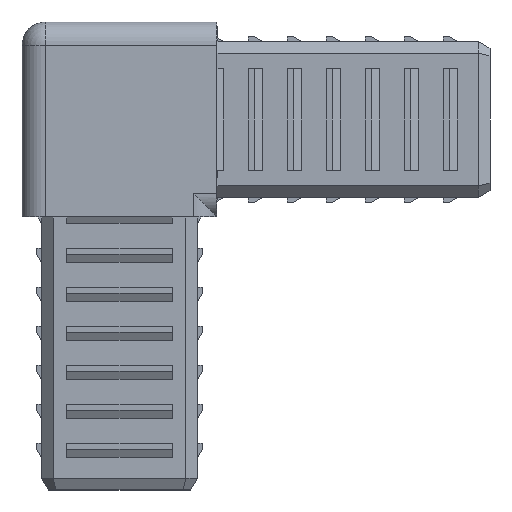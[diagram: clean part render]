
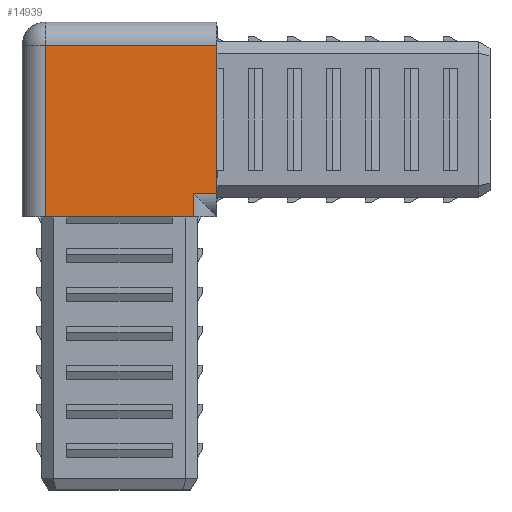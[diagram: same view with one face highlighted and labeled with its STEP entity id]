
A CAD part, front view. The second image highlights one B-rep face of the part: STEP entity #14939.
In plain terms, the highlighted planar face has unit normal (0, -1, 0).
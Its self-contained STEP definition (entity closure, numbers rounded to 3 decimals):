
#371 = VECTOR ( 'NONE', #10450, 1000. ) ;
#409 = VERTEX_POINT ( 'NONE', #15345 ) ;
#698 = ORIENTED_EDGE ( 'NONE', *, *, #14930, .T. ) ;
#900 = VECTOR ( 'NONE', #6062, 1000. ) ;
#1424 = PLANE ( 'NONE',  #14953 ) ;
#1698 = CARTESIAN_POINT ( 'NONE',  ( 9.5, -12.5, -9.5 ) ) ;
#2052 = VECTOR ( 'NONE', #4997, 1000. ) ;
#2377 = VERTEX_POINT ( 'NONE', #12640 ) ;
#2685 = ORIENTED_EDGE ( 'NONE', *, *, #2739, .T. ) ;
#2739 = EDGE_CURVE ( 'NONE', #10537, #2377, #3955, .T. ) ;
#3539 = LINE ( 'NONE', #13192, #900 ) ;
#3627 = ORIENTED_EDGE ( 'NONE', *, *, #5513, .T. ) ;
#3638 = LINE ( 'NONE', #1698, #14090 ) ;
#3955 = LINE ( 'NONE', #15468, #4912 ) ;
#3976 = CARTESIAN_POINT ( 'NONE',  ( -12.5, -12.5, 12.5 ) ) ;
#4563 = VERTEX_POINT ( 'NONE', #6643 ) ;
#4891 = CARTESIAN_POINT ( 'NONE',  ( -9.5, -12.5, 9.5 ) ) ;
#4912 = VECTOR ( 'NONE', #6022, 1000. ) ;
#4997 = DIRECTION ( 'NONE',  ( -1., 0., 0. ) ) ;
#5513 = EDGE_CURVE ( 'NONE', #14292, #10537, #10982, .T. ) ;
#6007 = LINE ( 'NONE', #6953, #371 ) ;
#6022 = DIRECTION ( 'NONE',  ( 1., 0., 0. ) ) ;
#6062 = DIRECTION ( 'NONE',  ( 0., 0., -1. ) ) ;
#6124 = ORIENTED_EDGE ( 'NONE', *, *, #15097, .F. ) ;
#6643 = CARTESIAN_POINT ( 'NONE',  ( 9.5, -12.5, -9.5 ) ) ;
#6953 = CARTESIAN_POINT ( 'NONE',  ( 9.5, -12.5, -12.5 ) ) ;
#7174 = DIRECTION ( 'NONE',  ( 0., 0., -1. ) ) ;
#7207 = EDGE_CURVE ( 'NONE', #4563, #11734, #3638, .T. ) ;
#8792 = DIRECTION ( 'NONE',  ( 1., 0., 0. ) ) ;
#8822 = FACE_OUTER_BOUND ( 'NONE', #15085, .T. ) ;
#9679 = CARTESIAN_POINT ( 'NONE',  ( -9.5, -12.5, 12.5 ) ) ;
#9741 = CARTESIAN_POINT ( 'NONE',  ( -12.5, -12.5, 9.5 ) ) ;
#9790 = DIRECTION ( 'NONE',  ( 0., 1., 0. ) ) ;
#9821 = CARTESIAN_POINT ( 'NONE',  ( 12.5, -12.5, -9.5 ) ) ;
#9959 = EDGE_CURVE ( 'NONE', #409, #11734, #3539, .T. ) ;
#9980 = ORIENTED_EDGE ( 'NONE', *, *, #7207, .T. ) ;
#10416 = VECTOR ( 'NONE', #7174, 1000. ) ;
#10450 = DIRECTION ( 'NONE',  ( 0., 0., -1. ) ) ;
#10537 = VERTEX_POINT ( 'NONE', #12864 ) ;
#10982 = LINE ( 'NONE', #9679, #10416 ) ;
#11734 = VERTEX_POINT ( 'NONE', #9821 ) ;
#12146 = DIRECTION ( 'NONE',  ( 0., 0., 1. ) ) ;
#12640 = CARTESIAN_POINT ( 'NONE',  ( 9.5, -12.5, -12.5 ) ) ;
#12748 = ORIENTED_EDGE ( 'NONE', *, *, #9959, .F. ) ;
#12864 = CARTESIAN_POINT ( 'NONE',  ( -9.5, -12.5, -12.5 ) ) ;
#12888 = LINE ( 'NONE', #9741, #2052 ) ;
#13192 = CARTESIAN_POINT ( 'NONE',  ( 12.5, -12.5, 12.5 ) ) ;
#14090 = VECTOR ( 'NONE', #8792, 1000. ) ;
#14292 = VERTEX_POINT ( 'NONE', #4891 ) ;
#14930 = EDGE_CURVE ( 'NONE', #409, #14292, #12888, .T. ) ;
#14939 = ADVANCED_FACE ( 'NONE', ( #8822 ), #1424, .F. ) ;
#14953 = AXIS2_PLACEMENT_3D ( 'NONE', #3976, #9790, #12146 ) ;
#15085 = EDGE_LOOP ( 'NONE', ( #9980, #12748, #698, #3627, #2685, #6124 ) ) ;
#15097 = EDGE_CURVE ( 'NONE', #4563, #2377, #6007, .T. ) ;
#15345 = CARTESIAN_POINT ( 'NONE',  ( 12.5, -12.5, 9.5 ) ) ;
#15468 = CARTESIAN_POINT ( 'NONE',  ( -12.5, -12.5, -12.5 ) ) ;
